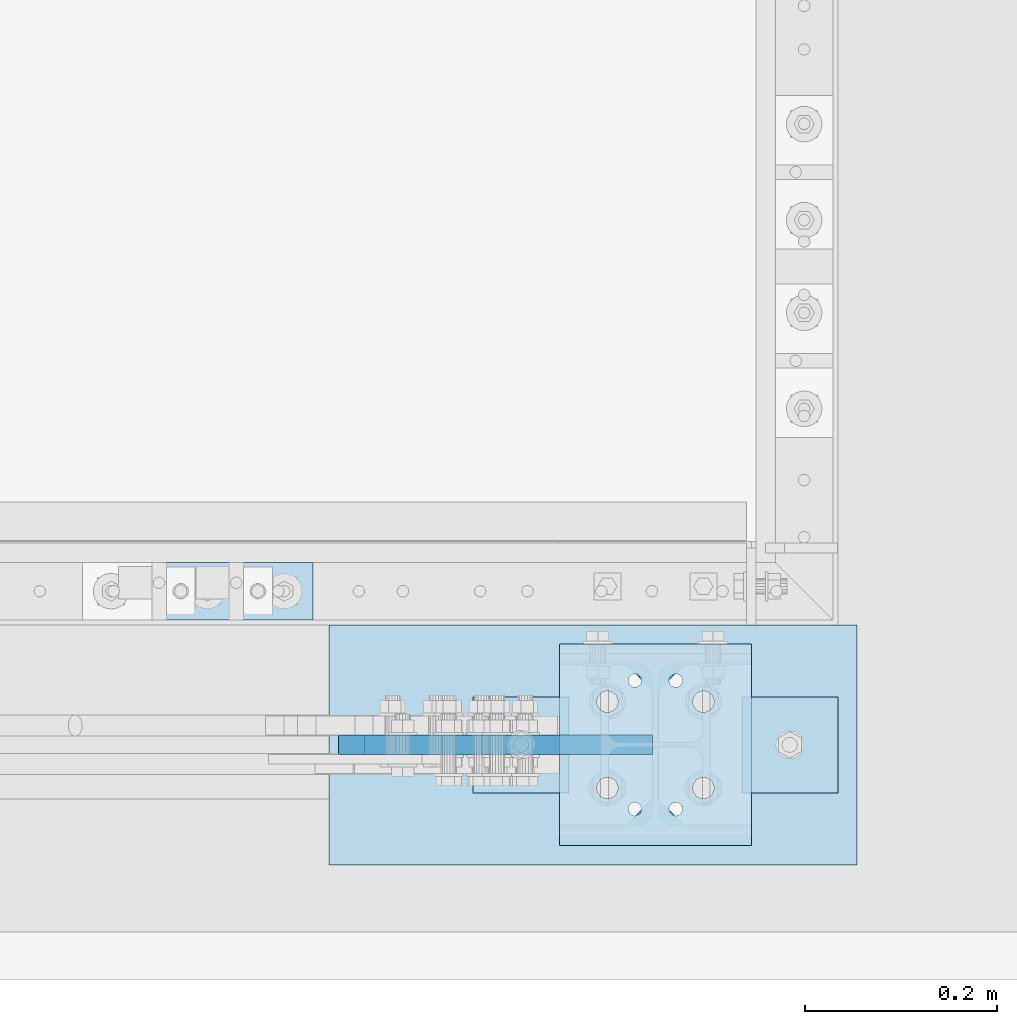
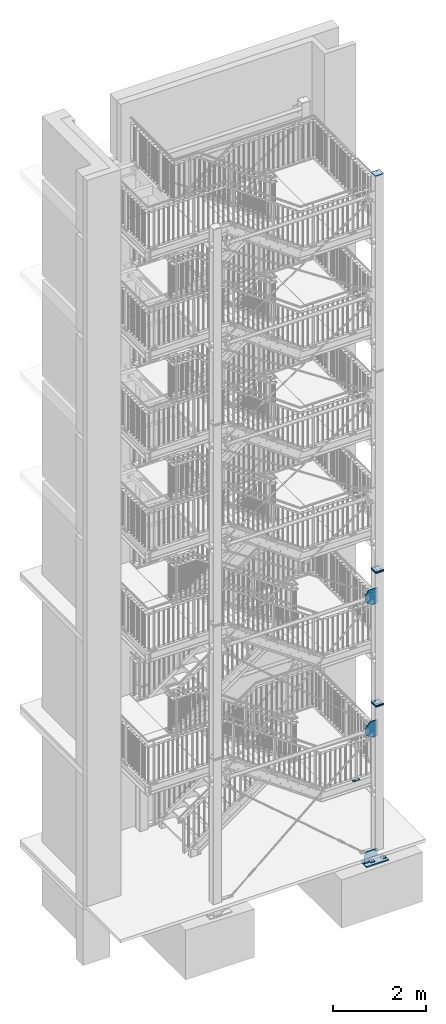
# One storey, part 199 of 831: 12 plates, 58 openings.
"""IFC2X3 building model written with IfcOpenShell, lengths in millimetres."""

from ifc_helpers import new_model, entity, si_unit, converted_unit, point, frame, frame_2d, origin, origin_with_axes, origin_2d_with_axis, place, context, project, spatial, polyline, circle_curve, line_curve, trimmed, segment, composite_curve, circle, outline, extrude, material, layer, layer_set, element, save


model = new_model("IFC2X3")

# Units and contexts
model_context = context("Model", 3, precision=1e-09, world=origin_with_axes())
ifc_project = project(units=[si_unit("LENGTHUNIT", "METRE", prefix="MILLI"), si_unit("AREAUNIT", "SQUARE_METRE"), si_unit("VOLUMEUNIT", "CUBIC_METRE"), converted_unit("PLANEANGLEUNIT", "DEGREE", entity("IfcPlaneAngleMeasure", 0.01745329), si_unit("PLANEANGLEUNIT", "RADIAN"), dimensions=[0, 0, 0, 0, 0, 0, 0])], contexts=[model_context])

# Site, building, storey
site_placement = place(None, origin_with_axes())
site = spatial("IfcSite", under=ifc_project, at=site_placement, Name="Site", CompositionType="ELEMENT")
building_placement = place(site_placement, origin_with_axes())
building = spatial("IfcBuilding", under=site, at=building_placement, Name="Struktur 1", CompositionType="ELEMENT")
storey_placement = place(building_placement, origin_with_axes())
storey = spatial("IfcBuildingStorey", under=building, at=storey_placement, Name="Default Storey", CompositionType="ELEMENT", Elevation=0.0)

# Plate, openings
ifc_material = material(Name="S235JR")
ifc_layer_1 = layer(ifc_material, 20.0)
ifc_layer_set_1 = layer_set([ifc_layer_1], Name="S235JR")
plate_1_placement = place(None, frame((8350.174109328, 4496.736971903, 2181.0526312), z_axis=(0.0, 0.0, 1.0), x_axis=(1.0, 0.0, 0.0)))
plate_1 = element("IfcPlate", 1, at=plate_1_placement, inside=storey, material=ifc_layer_set_1, Name="Plate#507", ObjectType="Plate#507", context=model_context, shape_type="SweptSolid", body=[
    extrude(outline(polyline([(0.0, 0.0), (160.0, 0.0), (160.0, 60.0), (0.0, 60.0), (0.0, 0.0)])), origin_with_axes(), (0.0, 0.0, 1.0), 20.0),
])
opening_1_placement = place(plate_1_placement, frame((38.0, 37.001, 20.5), z_axis=(0.0, 0.0, 1.0), x_axis=(-1.0, 0.0, 0.0)))
element("IfcOpeningElement", 2, at=opening_1_placement, cuts=plate_1, ObjectType="Opening", context=model_context, shape_type="SweptSolid", body=[
    extrude(outline(composite_curve([segment(trimmed(line_curve((0.0, 0.0), (1.0, 0.0), 16.0), [point((0.0, 0.0))], [point((16.0, 0.0))], True, "CARTESIAN"), True, "CONTINUOUS"), segment(trimmed(circle_curve(frame_2d((16.0, 7.001), x_axis=(1.0, 0.0)), 7.001), [point((16.0, 0.0))], [point((16.0, 14.002))], True, "CARTESIAN"), True, "CONTINUOUS"), segment(trimmed(line_curve((16.0, 14.002), (-1.0, 0.0), 16.0), [point((16.0, 14.002))], [point((0.0, 14.002))], True, "CARTESIAN"), True, "CONTINUOUS"), segment(trimmed(circle_curve(frame_2d((0.0, 7.001), x_axis=(1.0, 0.0)), 7.001), [point((0.0, 14.002))], [point((0.0, 0.0))], True, "CARTESIAN"), True, "CONTINUOUS")], self_intersect=False)), origin(), (0.0, 0.0, -1.0), 21.0),
])
opening_2_placement = place(plate_1_placement, frame((138.0, 37.001, 20.5), z_axis=(0.0, 0.0, 1.0), x_axis=(-1.0, 0.0, 0.0)))
element("IfcOpeningElement", 3, at=opening_2_placement, cuts=plate_1, ObjectType="Opening", context=model_context, shape_type="SweptSolid", body=[
    extrude(outline(composite_curve([segment(trimmed(line_curve((0.0, 0.0), (1.0, 0.0), 16.0), [point((0.0, 0.0))], [point((16.0, 0.0))], True, "CARTESIAN"), True, "CONTINUOUS"), segment(trimmed(circle_curve(frame_2d((16.0, 7.001), x_axis=(1.0, 0.0)), 7.001), [point((16.0, 0.0))], [point((16.0, 14.002))], True, "CARTESIAN"), True, "CONTINUOUS"), segment(trimmed(line_curve((16.0, 14.002), (-1.0, 0.0), 16.0), [point((16.0, 14.002))], [point((0.0, 14.002))], True, "CARTESIAN"), True, "CONTINUOUS"), segment(trimmed(circle_curve(frame_2d((0.0, 7.001), x_axis=(1.0, 0.0)), 7.001), [point((0.0, 14.002))], [point((0.0, 0.0))], True, "CARTESIAN"), True, "CONTINUOUS")], self_intersect=False)), origin(), (0.0, 0.0, -1.0), 21.0),
])

# Plate, opening
ifc_layer_2 = layer(ifc_material, 12.0)
ifc_layer_set_2 = layer_set([ifc_layer_2], Name="S235JR")
plate_2_placement = place(None, frame((8726.713402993, 4366.736971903, 60.0), z_axis=(0.0, 0.0, 1.0), x_axis=(-1.0, 0.0, 0.0)))
plate_2 = element("IfcPlate", 4, at=plate_2_placement, inside=storey, material=ifc_layer_set_2, Name="-", ObjectType="-", context=model_context, shape_type="SweptSolid", body=[
    extrude(outline(polyline([(-50.0, -50.0), (50.0, -50.0), (50.0, 50.0), (-50.0, 50.0), (-50.0, -50.0)])), origin_with_axes(), (0.0, 0.0, 1.0), 12.0),
])
opening_3_placement = place(plate_2_placement, frame((1e-09, 1e-09, -0.5), z_axis=(0.0, 0.0, 1.0), x_axis=(1.0, 0.0, 0.0)))
element("IfcOpeningElement", 5, at=opening_3_placement, cuts=plate_2, ObjectType="Opening", context=model_context, shape_type="SweptSolid", body=[
    extrude(circle(Radius=9.001, at=origin_2d_with_axis()), origin(), (0.0, 0.0, 1.0), 13.0),
])

plate_3_placement = place(None, frame((9006.713402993, 4366.736971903, 60.0), z_axis=(0.0, 0.0, 1.0), x_axis=(-1.0, 0.0, 0.0)))
plate_3 = element("IfcPlate", 6, at=plate_3_placement, inside=storey, material=ifc_layer_set_2, Name="-", ObjectType="-", context=model_context, shape_type="SweptSolid", body=[
    extrude(outline(polyline([(-50.0, -50.0), (50.0, -50.0), (50.0, 50.0), (-50.0, 50.0), (-50.0, -50.0)])), origin_with_axes(), (0.0, 0.0, 1.0), 12.0),
])
opening_4_placement = place(plate_3_placement, frame((1e-09, 1e-09, -0.5), z_axis=(0.0, 0.0, 1.0), x_axis=(1.0, 0.0, 0.0)))
element("IfcOpeningElement", 7, at=opening_4_placement, cuts=plate_3, ObjectType="Opening", context=model_context, shape_type="SweptSolid", body=[
    extrude(circle(Radius=9.001, at=origin_2d_with_axis()), origin(), (0.0, 0.0, 1.0), 13.0),
])

# Plate, openings
plate_4_placement = place(None, frame((8700.088402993, 4356.736971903, 206.477386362), z_axis=(0.0, 1.0, 0.0), x_axis=(-1.0, 0.0, 0.0)))
plate_4 = element("IfcPlate", 8, at=plate_4_placement, inside=storey, material=ifc_layer_set_1, Name="-", ObjectType="-", context=model_context, shape_type="SweptSolid", body=[
    extrude(outline(polyline([(-163.375, -146.477386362), (163.375, -146.477386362), (163.375, 146.477386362), (-163.375, 146.477386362), (-163.375, -146.477386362)])), origin_with_axes(), (0.0, 0.0, 1.0), 20.0),
])
opening_5_placement = place(plate_4_placement, frame((0.0, 0.0, -0.1), z_axis=(0.0, 0.0, 1.0), x_axis=(1.0, 0.0, 0.0)))
element("IfcOpeningElement", 9, at=opening_5_placement, cuts=plate_4, ObjectType="Opening", context=model_context, shape_type="SweptSolid", body=[
    extrude(outline(composite_curve([segment(trimmed(circle_curve(frame_2d((-198.468160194, -200.200309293), x_axis=(1.0, 0.0)), 40.0), [point((-238.468160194, -200.200309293))], [point((-198.468160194, -240.200309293))], True, "CARTESIAN"), True, "CONTINUOUS"), segment(trimmed(line_curve((-198.468160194, -240.200309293), (1.0, 0.0), 201.844160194), [point((-198.468160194, -240.200309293))], [point((3.376, -240.200309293))], True, "CARTESIAN"), True, "CONTINUOUS"), segment(trimmed(circle_curve(frame_2d((3.376, -200.200309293), x_axis=(1.0, 0.0)), 40.0), [point((3.376, -240.200309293))], [point((43.376, -200.200309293))], True, "CARTESIAN"), True, "CONTINUOUS"), segment(trimmed(line_curve((43.376, -200.200309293), (0.0, 1.0), 126.678695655), [point((43.376, -200.200309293))], [point((43.376, -73.521613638))], True, "CARTESIAN"), True, "CONTINUOUS"), segment(trimmed(circle_curve(frame_2d((3.376, -73.521613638), x_axis=(1.0, 0.0)), 40.0), [point((43.376, -73.521613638))], [point((3.376, -33.521613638))], True, "CARTESIAN"), True, "CONTINUOUS"), segment(trimmed(line_curve((3.376, -33.521613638), (-1.0, 0.0), 201.844160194), [point((3.376, -33.521613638))], [point((-198.468160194, -33.521613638))], True, "CARTESIAN"), True, "CONTINUOUS"), segment(trimmed(circle_curve(frame_2d((-198.468160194, -73.521613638), x_axis=(1.0, 0.0)), 40.0), [point((-198.468160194, -33.521613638))], [point((-238.468160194, -73.521613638))], True, "CARTESIAN"), True, "CONTINUOUS"), segment(trimmed(line_curve((-238.468160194, -73.521613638), (0.0, -1.0), 126.678695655), [point((-238.468160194, -73.521613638))], [point((-238.468160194, -200.200309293))], True, "CARTESIAN"), True, "CONTINUOUS")], self_intersect=False)), origin(), (0.0, 0.0, 1.0), 20.2),
])
opening_6_placement = place(plate_4_placement, frame((0.0, 0.0, 20.1), z_axis=(0.0, 0.0, -1.0), x_axis=(-1.0, 0.0, 0.0)))
element("IfcOpeningElement", 10, at=opening_6_placement, cuts=plate_4, ObjectType="Opening", context=model_context, shape_type="SweptSolid", body=[
    extrude(outline(polyline([(-191.909777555, 43.56401857), (-71.378116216, 185.096072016), (-213.193329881, 185.096072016), (-191.909777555, 43.56401857)])), origin(), (0.0, 0.0, 1.0), 20.2),
])
opening_7_placement = place(plate_4_placement, frame((100.284176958, 83.290813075, 20.5), z_axis=(0.0, 0.0, 1.0), x_axis=(1.0, 0.0, 0.0)))
element("IfcOpeningElement", 11, at=opening_7_placement, cuts=plate_4, ObjectType="Opening", context=model_context, shape_type="SweptSolid", body=[
    extrude(circle(Radius=9.001, at=frame_2d((6.821564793, 5.872329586), x_axis=(1.0, 0.0))), origin(), (0.0, 0.0, -1.0), 21.0),
])
opening_8_placement = place(plate_4_placement, frame((54.812130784, 44.146298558, 20.5), z_axis=(0.0, 0.0, 1.0), x_axis=(1.0, 0.0, 0.0)))
element("IfcOpeningElement", 12, at=opening_8_placement, cuts=plate_4, ObjectType="Opening", context=model_context, shape_type="SweptSolid", body=[
    extrude(circle(Radius=9.001, at=frame_2d((6.821564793, 5.872329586), x_axis=(1.0, 0.0))), origin(), (0.0, 0.0, -1.0), 21.0),
])

ifc_layer_3 = layer(ifc_material, 30.0)
ifc_layer_set_3 = layer_set([ifc_layer_3], Name="S235JR")
plate_5_placement = place(None, frame((8801.713402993, 4366.736971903, 30.0), z_axis=(0.0, 0.0, 1.0), x_axis=(-1.0, 0.0, 0.0)))
plate_5 = element("IfcPlate", 13, at=plate_5_placement, inside=storey, material=ifc_layer_set_3, Name="-", ObjectType="-", context=model_context, shape_type="SweptSolid", body=[
    extrude(outline(polyline([(-275.0, -125.0), (275.0, -125.0), (275.0, 125.0), (-275.0, 125.0), (-275.0, -125.0)])), origin_with_axes(), (0.0, 0.0, 1.0), 30.0),
])
opening_9_placement = place(plate_5_placement, frame((-65.0, 0.0, -0.5), z_axis=(0.0, 0.0, 1.0), x_axis=(1.0, 0.0, 0.0)))
element("IfcOpeningElement", 14, at=opening_9_placement, cuts=plate_5, ObjectType="Opening", context=model_context, shape_type="SweptSolid", body=[
    extrude(circle(Radius=28.001, at=frame_2d((140.0, 0.0), x_axis=(1.0, 0.0))), origin(), (0.0, 0.0, 1.0), 31.0),
])
opening_10_placement = place(plate_5_placement, frame((-65.0, 0.0, -0.5), z_axis=(0.0, 0.0, 1.0), x_axis=(1.0, 0.0, 0.0)))
element("IfcOpeningElement", 15, at=opening_10_placement, cuts=plate_5, ObjectType="Opening", context=model_context, shape_type="SweptSolid", body=[
    extrude(circle(Radius=28.001, at=frame_2d((-140.0, 0.0), x_axis=(1.0, 0.0))), origin(), (0.0, 0.0, 1.0), 31.0),
])

ifc_layer_4 = layer(ifc_material, 25.0)
ifc_layer_set_4 = layer_set([ifc_layer_4], Name="S235JR")
plate_6_placement = place(None, frame((8866.713402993, 4366.736971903, 4150.0), z_axis=(0.0, 0.0, -1.0), x_axis=(0.0, -1.0, 0.0)))
plate_6 = element("IfcPlate", 16, at=plate_6_placement, inside=storey, material=ifc_layer_set_4, Name="Endplate#1", ObjectType="Endplate#1", context=model_context, shape_type="SweptSolid", body=[
    extrude(outline(polyline([(-105.0, -100.0), (105.0, -100.0), (105.0, 100.0), (-105.0, 100.0), (-105.0, -100.0)])), origin_with_axes(), (0.0, 0.0, 1.0), 25.0),
])
opening_11_placement = place(plate_6_placement, frame((67.0, 21.25, -0.5), z_axis=(0.0, 0.0, 1.0), x_axis=(1.0, 0.0, 0.0)))
element("IfcOpeningElement", 17, at=opening_11_placement, cuts=plate_6, ObjectType="Opening", context=model_context, shape_type="SweptSolid", body=[
    extrude(circle(Radius=7.001, at=origin_2d_with_axis()), origin(), (0.0, 0.0, 1.0), 26.0),
])
opening_12_placement = place(plate_6_placement, frame((-67.0, 21.25, -0.5), z_axis=(0.0, 0.0, 1.0), x_axis=(1.0, 0.0, 0.0)))
element("IfcOpeningElement", 18, at=opening_12_placement, cuts=plate_6, ObjectType="Opening", context=model_context, shape_type="SweptSolid", body=[
    extrude(circle(Radius=7.001, at=origin_2d_with_axis()), origin(), (0.0, 0.0, 1.0), 26.0),
])
opening_13_placement = place(plate_6_placement, frame((-67.0, -21.25, -0.5), z_axis=(0.0, 0.0, 1.0), x_axis=(1.0, 0.0, 0.0)))
element("IfcOpeningElement", 19, at=opening_13_placement, cuts=plate_6, ObjectType="Opening", context=model_context, shape_type="SweptSolid", body=[
    extrude(circle(Radius=7.001, at=origin_2d_with_axis()), origin(), (0.0, 0.0, 1.0), 26.0),
])
opening_14_placement = place(plate_6_placement, frame((67.0, -21.25, -0.5), z_axis=(0.0, 0.0, 1.0), x_axis=(1.0, 0.0, 0.0)))
element("IfcOpeningElement", 20, at=opening_14_placement, cuts=plate_6, ObjectType="Opening", context=model_context, shape_type="SweptSolid", body=[
    extrude(circle(Radius=7.001, at=origin_2d_with_axis()), origin(), (0.0, 0.0, 1.0), 26.0),
])
opening_15_placement = place(plate_6_placement, frame((45.0, -38.999, 25.5), z_axis=(0.0, 0.0, 1.0), x_axis=(1.0, 0.0, 0.0)))
element("IfcOpeningElement", 21, at=opening_15_placement, cuts=plate_6, ObjectType="Opening", context=model_context, shape_type="SweptSolid", body=[
    extrude(circle(Radius=11.001, at=frame_2d((0.0, -11.001), x_axis=(1.0, 0.0))), origin(), (0.0, 0.0, -1.0), 26.0),
])
opening_16_placement = place(plate_6_placement, frame((-45.0, -38.999, 25.5), z_axis=(0.0, 0.0, 1.0), x_axis=(1.0, 0.0, 0.0)))
element("IfcOpeningElement", 22, at=opening_16_placement, cuts=plate_6, ObjectType="Opening", context=model_context, shape_type="SweptSolid", body=[
    extrude(circle(Radius=11.001, at=frame_2d((0.0, -11.001), x_axis=(1.0, 0.0))), origin(), (0.0, 0.0, -1.0), 26.0),
])
opening_17_placement = place(plate_6_placement, frame((45.0, 61.001, 25.5), z_axis=(0.0, 0.0, 1.0), x_axis=(1.0, 0.0, 0.0)))
element("IfcOpeningElement", 23, at=opening_17_placement, cuts=plate_6, ObjectType="Opening", context=model_context, shape_type="SweptSolid", body=[
    extrude(circle(Radius=11.001, at=frame_2d((0.0, -11.001), x_axis=(1.0, 0.0))), origin(), (0.0, 0.0, -1.0), 26.0),
])
opening_18_placement = place(plate_6_placement, frame((-45.0, 61.001, 25.5), z_axis=(0.0, 0.0, 1.0), x_axis=(1.0, 0.0, 0.0)))
element("IfcOpeningElement", 24, at=opening_18_placement, cuts=plate_6, ObjectType="Opening", context=model_context, shape_type="SweptSolid", body=[
    extrude(circle(Radius=11.001, at=frame_2d((0.0, -11.001), x_axis=(1.0, 0.0))), origin(), (0.0, 0.0, -1.0), 26.0),
])

plate_7_placement = place(None, frame((8866.713402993, 4366.736971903, 4175.0), z_axis=(0.0, 0.0, -1.0), x_axis=(0.0, -1.0, 0.0)))
plate_7 = element("IfcPlate", 25, at=plate_7_placement, inside=storey, material=ifc_layer_set_4, Name="Endplate#2", ObjectType="Endplate#2", context=model_context, shape_type="SweptSolid", body=[
    extrude(outline(polyline([(-105.0, -100.0), (105.0, -100.0), (105.0, 100.0), (-105.0, 100.0), (-105.0, -100.0)])), origin_with_axes(), (0.0, 0.0, 1.0), 25.0),
])
opening_19_placement = place(plate_7_placement, frame((67.0, 21.25, 25.5), z_axis=(0.0, 0.0, -1.0), x_axis=(-1.0, 0.0, 0.0)))
element("IfcOpeningElement", 26, at=opening_19_placement, cuts=plate_7, ObjectType="Opening", context=model_context, shape_type="SweptSolid", body=[
    extrude(circle(Radius=7.001, at=origin_2d_with_axis()), origin(), (0.0, 0.0, 1.0), 26.0),
])
opening_20_placement = place(plate_7_placement, frame((-67.0, 21.25, 25.5), z_axis=(0.0, 0.0, -1.0), x_axis=(-1.0, 0.0, 0.0)))
element("IfcOpeningElement", 27, at=opening_20_placement, cuts=plate_7, ObjectType="Opening", context=model_context, shape_type="SweptSolid", body=[
    extrude(circle(Radius=7.001, at=origin_2d_with_axis()), origin(), (0.0, 0.0, 1.0), 26.0),
])
opening_21_placement = place(plate_7_placement, frame((-67.0, -21.25, 25.5), z_axis=(0.0, 0.0, -1.0), x_axis=(-1.0, 0.0, 0.0)))
element("IfcOpeningElement", 28, at=opening_21_placement, cuts=plate_7, ObjectType="Opening", context=model_context, shape_type="SweptSolid", body=[
    extrude(circle(Radius=7.001, at=origin_2d_with_axis()), origin(), (0.0, 0.0, 1.0), 26.0),
])
opening_22_placement = place(plate_7_placement, frame((67.0, -21.25, 25.5), z_axis=(0.0, 0.0, -1.0), x_axis=(-1.0, 0.0, 0.0)))
element("IfcOpeningElement", 29, at=opening_22_placement, cuts=plate_7, ObjectType="Opening", context=model_context, shape_type="SweptSolid", body=[
    extrude(circle(Radius=7.001, at=origin_2d_with_axis()), origin(), (0.0, 0.0, 1.0), 26.0),
])
opening_23_placement = place(plate_7_placement, frame((45.0, -38.999, 25.5), z_axis=(0.0, 0.0, 1.0), x_axis=(1.0, 0.0, 0.0)))
element("IfcOpeningElement", 30, at=opening_23_placement, cuts=plate_7, ObjectType="Opening", context=model_context, shape_type="SweptSolid", body=[
    extrude(circle(Radius=11.001, at=frame_2d((0.0, -11.001), x_axis=(1.0, 0.0))), origin(), (0.0, 0.0, -1.0), 26.0),
])
opening_24_placement = place(plate_7_placement, frame((-45.0, -38.999, 25.5), z_axis=(0.0, 0.0, 1.0), x_axis=(1.0, 0.0, 0.0)))
element("IfcOpeningElement", 31, at=opening_24_placement, cuts=plate_7, ObjectType="Opening", context=model_context, shape_type="SweptSolid", body=[
    extrude(circle(Radius=11.001, at=frame_2d((0.0, -11.001), x_axis=(1.0, 0.0))), origin(), (0.0, 0.0, -1.0), 26.0),
])
opening_25_placement = place(plate_7_placement, frame((45.0, 61.001, 25.5), z_axis=(0.0, 0.0, 1.0), x_axis=(1.0, 0.0, 0.0)))
element("IfcOpeningElement", 32, at=opening_25_placement, cuts=plate_7, ObjectType="Opening", context=model_context, shape_type="SweptSolid", body=[
    extrude(circle(Radius=11.001, at=frame_2d((0.0, -11.001), x_axis=(1.0, 0.0))), origin(), (0.0, 0.0, -1.0), 26.0),
])
opening_26_placement = place(plate_7_placement, frame((-45.0, 61.001, 25.5), z_axis=(0.0, 0.0, 1.0), x_axis=(1.0, 0.0, 0.0)))
element("IfcOpeningElement", 33, at=opening_26_placement, cuts=plate_7, ObjectType="Opening", context=model_context, shape_type="SweptSolid", body=[
    extrude(circle(Radius=11.001, at=frame_2d((0.0, -11.001), x_axis=(1.0, 0.0))), origin(), (0.0, 0.0, -1.0), 26.0),
])

plate_8_placement = place(None, frame((8866.713402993, 4366.736971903, 7650.0), z_axis=(0.0, 0.0, -1.0), x_axis=(0.0, -1.0, 0.0)))
plate_8 = element("IfcPlate", 34, at=plate_8_placement, inside=storey, material=ifc_layer_set_4, Name="Endplate#1", ObjectType="Endplate#1", context=model_context, shape_type="SweptSolid", body=[
    extrude(outline(polyline([(-105.0, -100.0), (105.0, -100.0), (105.0, 100.0), (-105.0, 100.0), (-105.0, -100.0)])), origin_with_axes(), (0.0, 0.0, 1.0), 25.0),
])
opening_27_placement = place(plate_8_placement, frame((67.0, 21.25, -0.5), z_axis=(0.0, 0.0, 1.0), x_axis=(1.0, 0.0, 0.0)))
element("IfcOpeningElement", 35, at=opening_27_placement, cuts=plate_8, ObjectType="Opening", context=model_context, shape_type="SweptSolid", body=[
    extrude(circle(Radius=7.001, at=origin_2d_with_axis()), origin(), (0.0, 0.0, 1.0), 26.0),
])
opening_28_placement = place(plate_8_placement, frame((-67.0, 21.25, -0.5), z_axis=(0.0, 0.0, 1.0), x_axis=(1.0, 0.0, 0.0)))
element("IfcOpeningElement", 36, at=opening_28_placement, cuts=plate_8, ObjectType="Opening", context=model_context, shape_type="SweptSolid", body=[
    extrude(circle(Radius=7.001, at=origin_2d_with_axis()), origin(), (0.0, 0.0, 1.0), 26.0),
])
opening_29_placement = place(plate_8_placement, frame((-67.0, -21.25, -0.5), z_axis=(0.0, 0.0, 1.0), x_axis=(1.0, 0.0, 0.0)))
element("IfcOpeningElement", 37, at=opening_29_placement, cuts=plate_8, ObjectType="Opening", context=model_context, shape_type="SweptSolid", body=[
    extrude(circle(Radius=7.001, at=origin_2d_with_axis()), origin(), (0.0, 0.0, 1.0), 26.0),
])
opening_30_placement = place(plate_8_placement, frame((67.0, -21.25, -0.5), z_axis=(0.0, 0.0, 1.0), x_axis=(1.0, 0.0, 0.0)))
element("IfcOpeningElement", 38, at=opening_30_placement, cuts=plate_8, ObjectType="Opening", context=model_context, shape_type="SweptSolid", body=[
    extrude(circle(Radius=7.001, at=origin_2d_with_axis()), origin(), (0.0, 0.0, 1.0), 26.0),
])
opening_31_placement = place(plate_8_placement, frame((45.0, -38.999, 25.5), z_axis=(0.0, 0.0, 1.0), x_axis=(1.0, 0.0, 0.0)))
element("IfcOpeningElement", 39, at=opening_31_placement, cuts=plate_8, ObjectType="Opening", context=model_context, shape_type="SweptSolid", body=[
    extrude(circle(Radius=11.001, at=frame_2d((0.0, -11.001), x_axis=(1.0, 0.0))), origin(), (0.0, 0.0, -1.0), 26.0),
])
opening_32_placement = place(plate_8_placement, frame((-45.0, -38.999, 25.5), z_axis=(0.0, 0.0, 1.0), x_axis=(1.0, 0.0, 0.0)))
element("IfcOpeningElement", 40, at=opening_32_placement, cuts=plate_8, ObjectType="Opening", context=model_context, shape_type="SweptSolid", body=[
    extrude(circle(Radius=11.001, at=frame_2d((0.0, -11.001), x_axis=(1.0, 0.0))), origin(), (0.0, 0.0, -1.0), 26.0),
])
opening_33_placement = place(plate_8_placement, frame((45.0, 61.001, 25.5), z_axis=(0.0, 0.0, 1.0), x_axis=(1.0, 0.0, 0.0)))
element("IfcOpeningElement", 41, at=opening_33_placement, cuts=plate_8, ObjectType="Opening", context=model_context, shape_type="SweptSolid", body=[
    extrude(circle(Radius=11.001, at=frame_2d((0.0, -11.001), x_axis=(1.0, 0.0))), origin(), (0.0, 0.0, -1.0), 26.0),
])
opening_34_placement = place(plate_8_placement, frame((-45.0, 61.001, 25.5), z_axis=(0.0, 0.0, 1.0), x_axis=(1.0, 0.0, 0.0)))
element("IfcOpeningElement", 42, at=opening_34_placement, cuts=plate_8, ObjectType="Opening", context=model_context, shape_type="SweptSolid", body=[
    extrude(circle(Radius=11.001, at=frame_2d((0.0, -11.001), x_axis=(1.0, 0.0))), origin(), (0.0, 0.0, -1.0), 26.0),
])

plate_9_placement = place(None, frame((8866.713402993, 4366.736971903, 7675.0), z_axis=(0.0, 0.0, -1.0), x_axis=(0.0, -1.0, 0.0)))
plate_9 = element("IfcPlate", 43, at=plate_9_placement, inside=storey, material=ifc_layer_set_4, Name="Endplate#2", ObjectType="Endplate#2", context=model_context, shape_type="SweptSolid", body=[
    extrude(outline(polyline([(-105.0, -100.0), (105.0, -100.0), (105.0, 100.0), (-105.0, 100.0), (-105.0, -100.0)])), origin_with_axes(), (0.0, 0.0, 1.0), 25.0),
])
opening_35_placement = place(plate_9_placement, frame((67.0, 21.25, 25.5), z_axis=(0.0, 0.0, -1.0), x_axis=(-1.0, 0.0, 0.0)))
element("IfcOpeningElement", 44, at=opening_35_placement, cuts=plate_9, ObjectType="Opening", context=model_context, shape_type="SweptSolid", body=[
    extrude(circle(Radius=7.001, at=origin_2d_with_axis()), origin(), (0.0, 0.0, 1.0), 26.0),
])
opening_36_placement = place(plate_9_placement, frame((-67.0, 21.25, 25.5), z_axis=(0.0, 0.0, -1.0), x_axis=(-1.0, 0.0, 0.0)))
element("IfcOpeningElement", 45, at=opening_36_placement, cuts=plate_9, ObjectType="Opening", context=model_context, shape_type="SweptSolid", body=[
    extrude(circle(Radius=7.001, at=origin_2d_with_axis()), origin(), (0.0, 0.0, 1.0), 26.0),
])
opening_37_placement = place(plate_9_placement, frame((-67.0, -21.25, 25.5), z_axis=(0.0, 0.0, -1.0), x_axis=(-1.0, 0.0, 0.0)))
element("IfcOpeningElement", 46, at=opening_37_placement, cuts=plate_9, ObjectType="Opening", context=model_context, shape_type="SweptSolid", body=[
    extrude(circle(Radius=7.001, at=origin_2d_with_axis()), origin(), (0.0, 0.0, 1.0), 26.0),
])
opening_38_placement = place(plate_9_placement, frame((67.0, -21.25, 25.5), z_axis=(0.0, 0.0, -1.0), x_axis=(-1.0, 0.0, 0.0)))
element("IfcOpeningElement", 47, at=opening_38_placement, cuts=plate_9, ObjectType="Opening", context=model_context, shape_type="SweptSolid", body=[
    extrude(circle(Radius=7.001, at=origin_2d_with_axis()), origin(), (0.0, 0.0, 1.0), 26.0),
])
opening_39_placement = place(plate_9_placement, frame((45.0, -38.999, 25.5), z_axis=(0.0, 0.0, 1.0), x_axis=(1.0, 0.0, 0.0)))
element("IfcOpeningElement", 48, at=opening_39_placement, cuts=plate_9, ObjectType="Opening", context=model_context, shape_type="SweptSolid", body=[
    extrude(circle(Radius=11.001, at=frame_2d((0.0, -11.001), x_axis=(1.0, 0.0))), origin(), (0.0, 0.0, -1.0), 26.0),
])
opening_40_placement = place(plate_9_placement, frame((-45.0, -38.999, 25.5), z_axis=(0.0, 0.0, 1.0), x_axis=(1.0, 0.0, 0.0)))
element("IfcOpeningElement", 49, at=opening_40_placement, cuts=plate_9, ObjectType="Opening", context=model_context, shape_type="SweptSolid", body=[
    extrude(circle(Radius=11.001, at=frame_2d((0.0, -11.001), x_axis=(1.0, 0.0))), origin(), (0.0, 0.0, -1.0), 26.0),
])
opening_41_placement = place(plate_9_placement, frame((45.0, 61.001, 25.5), z_axis=(0.0, 0.0, 1.0), x_axis=(1.0, 0.0, 0.0)))
element("IfcOpeningElement", 50, at=opening_41_placement, cuts=plate_9, ObjectType="Opening", context=model_context, shape_type="SweptSolid", body=[
    extrude(circle(Radius=11.001, at=frame_2d((0.0, -11.001), x_axis=(1.0, 0.0))), origin(), (0.0, 0.0, -1.0), 26.0),
])
opening_42_placement = place(plate_9_placement, frame((-45.0, 61.001, 25.5), z_axis=(0.0, 0.0, 1.0), x_axis=(1.0, 0.0, 0.0)))
element("IfcOpeningElement", 51, at=opening_42_placement, cuts=plate_9, ObjectType="Opening", context=model_context, shape_type="SweptSolid", body=[
    extrude(circle(Radius=11.001, at=frame_2d((0.0, -11.001), x_axis=(1.0, 0.0))), origin(), (0.0, 0.0, -1.0), 26.0),
])

ifc_layer_5 = layer(ifc_material, 10.0)
ifc_layer_set_5 = layer_set([ifc_layer_5], Name="S235JR")
plate_10_placement = place(None, frame((8866.713402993, 4366.736971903, 18013.999999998), z_axis=(0.0, 0.0, 1.0), x_axis=(1.0, 0.0, 0.0)))
plate_10 = element("IfcPlate", 52, at=plate_10_placement, inside=storey, material=ifc_layer_set_5, Name="-", ObjectType="-", context=model_context, shape_type="SweptSolid", body=[
    extrude(outline(polyline([(-100.0, -90.0), (100.0, -90.0), (100.0, 90.0), (-100.0, 90.0), (-100.0, -90.0)])), origin_with_axes(), (0.0, 0.0, 1.0), 10.0),
])
opening_43_placement = place(plate_10_placement, frame((-21.25, -67.0, 10.5), z_axis=(0.0, 0.0, -1.0), x_axis=(0.0, -1.0, 0.0)))
element("IfcOpeningElement", 53, at=opening_43_placement, cuts=plate_10, ObjectType="Opening", context=model_context, shape_type="SweptSolid", body=[
    extrude(circle(Radius=6.001, at=origin_2d_with_axis()), origin(), (0.0, 0.0, 1.0), 11.0),
])
opening_44_placement = place(plate_10_placement, frame((-21.25, 67.0, 10.5), z_axis=(0.0, 0.0, -1.0), x_axis=(0.0, -1.0, 0.0)))
element("IfcOpeningElement", 54, at=opening_44_placement, cuts=plate_10, ObjectType="Opening", context=model_context, shape_type="SweptSolid", body=[
    extrude(circle(Radius=6.001, at=origin_2d_with_axis()), origin(), (0.0, 0.0, 1.0), 11.0),
])
opening_45_placement = place(plate_10_placement, frame((21.25, 67.0, 10.5), z_axis=(0.0, 0.0, -1.0), x_axis=(0.0, -1.0, 0.0)))
element("IfcOpeningElement", 55, at=opening_45_placement, cuts=plate_10, ObjectType="Opening", context=model_context, shape_type="SweptSolid", body=[
    extrude(circle(Radius=6.001, at=origin_2d_with_axis()), origin(), (0.0, 0.0, 1.0), 11.0),
])
opening_46_placement = place(plate_10_placement, frame((21.25, -67.0, 10.5), z_axis=(0.0, 0.0, -1.0), x_axis=(0.0, -1.0, 0.0)))
element("IfcOpeningElement", 56, at=opening_46_placement, cuts=plate_10, ObjectType="Opening", context=model_context, shape_type="SweptSolid", body=[
    extrude(circle(Radius=6.001, at=origin_2d_with_axis()), origin(), (0.0, 0.0, 1.0), 11.0),
])

plate_11_placement = place(None, frame((8863.463402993, 4356.736971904, 3302.430347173), z_axis=(0.0, -1.0, 0.0), x_axis=(0.0, 0.0, 1.0)))
plate_11 = element("IfcPlate", 57, at=plate_11_placement, inside=storey, material=ifc_layer_set_1, Name="-", ObjectType="-", context=model_context, shape_type="SweptSolid", body=[
    extrude(outline(polyline([(0.0, 0.0), (420.206365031, 0.0), (420.206365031, 177.249749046), (279.569648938, 300.0), (139.569648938, 300.0), (0.0, 181.139563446), (0.0, 0.0)])), origin_with_axes(), (0.0, 0.0, -1.0), 20.0),
])
opening_47_placement = place(plate_11_placement, frame((209.569648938, 260.0, -20.5), z_axis=(0.0, 0.0, 1.0), x_axis=(0.0, -1.0, 0.0)))
element("IfcOpeningElement", 58, at=opening_47_placement, cuts=plate_11, ObjectType="Opening", context=model_context, shape_type="SweptSolid", body=[
    extrude(circle(Radius=9.001, at=frame_2d((0.0, 30.0), x_axis=(1.0, 0.0))), origin(), (0.0, 0.0, 1.0), 21.0),
])
opening_48_placement = place(plate_11_placement, frame((209.569648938, 260.0, -20.5), z_axis=(0.0, 0.0, 1.0), x_axis=(0.0, -1.0, 0.0)))
element("IfcOpeningElement", 59, at=opening_48_placement, cuts=plate_11, ObjectType="Opening", context=model_context, shape_type="SweptSolid", body=[
    extrude(circle(Radius=9.001, at=frame_2d((0.0, -30.0), x_axis=(1.0, 0.0))), origin(), (0.0, 0.0, 1.0), 21.0),
])
opening_49_placement = place(plate_11_placement, frame((71.619889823, 156.998706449, -20.5), z_axis=(0.0, 0.0, 1.0), x_axis=(-0.652408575, 0.757867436, 0.0)))
element("IfcOpeningElement", 60, at=opening_49_placement, cuts=plate_11, ObjectType="Opening", context=model_context, shape_type="SweptSolid", body=[
    extrude(circle(Radius=9.001, at=frame_2d((30.0, 0.0), x_axis=(1.0, 0.0))), origin(), (0.0, 0.0, 1.0), 21.0),
])
opening_50_placement = place(plate_11_placement, frame((71.619889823, 156.998706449, -20.5), z_axis=(0.0, 0.0, 1.0), x_axis=(-0.652408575, 0.757867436, 0.0)))
element("IfcOpeningElement", 61, at=opening_50_placement, cuts=plate_11, ObjectType="Opening", context=model_context, shape_type="SweptSolid", body=[
    extrude(circle(Radius=9.001, at=frame_2d((-30.0, 0.0), x_axis=(1.0, 0.0))), origin(), (0.0, 0.0, 1.0), 21.0),
])
opening_51_placement = place(plate_11_placement, frame((360.470508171, 170.983355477, -20.5), z_axis=(0.0, 0.0, -1.0), x_axis=(-1.0, 0.0, 0.0)))
element("IfcOpeningElement", 62, at=opening_51_placement, cuts=plate_11, ObjectType="Opening", context=model_context, shape_type="SweptSolid", body=[
    extrude(circle(Radius=9.001, at=frame_2d((-5.89276857, 6.803916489), x_axis=(1.0, 0.0))), origin(), (0.0, 0.0, -1.0), 21.0),
])
opening_52_placement = place(plate_11_placement, frame((321.189748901, 125.628951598, -20.5), z_axis=(0.0, 0.0, -1.0), x_axis=(-1.0, 0.0, 0.0)))
element("IfcOpeningElement", 63, at=opening_52_placement, cuts=plate_11, ObjectType="Opening", context=model_context, shape_type="SweptSolid", body=[
    extrude(circle(Radius=9.001, at=frame_2d((-5.89276857, 6.803916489), x_axis=(1.0, 0.0))), origin(), (0.0, 0.0, -1.0), 21.0),
])

plate_12_placement = place(None, frame((8863.463402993, 4376.736971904, 7178.428402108), z_axis=(0.0, 1.0, 0.0), x_axis=(0.0, 0.0, -1.0)))
plate_12 = element("IfcPlate", 64, at=plate_12_placement, inside=storey, material=ifc_layer_set_1, Name="-", ObjectType="-", context=model_context, shape_type="SweptSolid", body=[
    extrude(outline(polyline([(0.0, 0.0), (404.06512209, 0.0), (404.06512209, 177.249749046), (263.428405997, 300.0), (123.428405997, 300.0), (0.0, 219.202103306), (0.0, 0.0)])), origin_with_axes(), (0.0, 0.0, -1.0), 20.0),
])
opening_53_placement = place(plate_12_placement, frame((193.428405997, 260.0, 0.5), z_axis=(0.0, 0.0, -1.0), x_axis=(0.0, -1.0, 0.0)))
element("IfcOpeningElement", 65, at=opening_53_placement, cuts=plate_12, ObjectType="Opening", context=model_context, shape_type="SweptSolid", body=[
    extrude(circle(Radius=9.001, at=frame_2d((0.0, 30.0), x_axis=(1.0, 0.0))), origin(), (0.0, 0.0, 1.0), 21.0),
])
opening_54_placement = place(plate_12_placement, frame((193.428405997, 260.0, 0.5), z_axis=(0.0, 0.0, -1.0), x_axis=(0.0, -1.0, 0.0)))
element("IfcOpeningElement", 66, at=opening_54_placement, cuts=plate_12, ObjectType="Opening", context=model_context, shape_type="SweptSolid", body=[
    extrude(circle(Radius=9.001, at=frame_2d((0.0, -30.0), x_axis=(1.0, 0.0))), origin(), (0.0, 0.0, 1.0), 21.0),
])
opening_55_placement = place(plate_12_placement, frame((330.702941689, 155.250111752, 0.5), z_axis=(0.0, 0.0, -1.0), x_axis=(0.654679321, 0.755906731, 0.0)))
element("IfcOpeningElement", 67, at=opening_55_placement, cuts=plate_12, ObjectType="Opening", context=model_context, shape_type="SweptSolid", body=[
    extrude(circle(Radius=9.001, at=frame_2d((30.0, 0.0), x_axis=(1.0, 0.0))), origin(), (0.0, 0.0, 1.0), 21.0),
])
opening_56_placement = place(plate_12_placement, frame((330.702941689, 155.250111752, 0.5), z_axis=(0.0, 0.0, -1.0), x_axis=(0.654679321, 0.755906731, 0.0)))
element("IfcOpeningElement", 68, at=opening_56_placement, cuts=plate_12, ObjectType="Opening", context=model_context, shape_type="SweptSolid", body=[
    extrude(circle(Radius=9.001, at=frame_2d((-30.0, 0.0), x_axis=(1.0, 0.0))), origin(), (0.0, 0.0, 1.0), 21.0),
])
opening_57_placement = place(plate_12_placement, frame((57.299912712, 204.149413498, 0.5), z_axis=(0.0, 0.0, 1.0), x_axis=(1.0, 0.0, 0.0)))
element("IfcOpeningElement", 69, at=opening_57_placement, cuts=plate_12, ObjectType="Opening", context=model_context, shape_type="SweptSolid", body=[
    extrude(circle(Radius=9.001, at=frame_2d((-4.939030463, 7.524890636), x_axis=(1.0, 0.0))), origin(), (0.0, 0.0, -1.0), 21.0),
])
opening_58_placement = place(plate_12_placement, frame((90.223124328, 153.989049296, 0.5), z_axis=(0.0, 0.0, 1.0), x_axis=(1.0, 0.0, 0.0)))
element("IfcOpeningElement", 70, at=opening_58_placement, cuts=plate_12, ObjectType="Opening", context=model_context, shape_type="SweptSolid", body=[
    extrude(circle(Radius=9.001, at=frame_2d((-4.939030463, 7.524890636), x_axis=(1.0, 0.0))), origin(), (0.0, 0.0, -1.0), 21.0),
])

save(model, "model.ifc")
